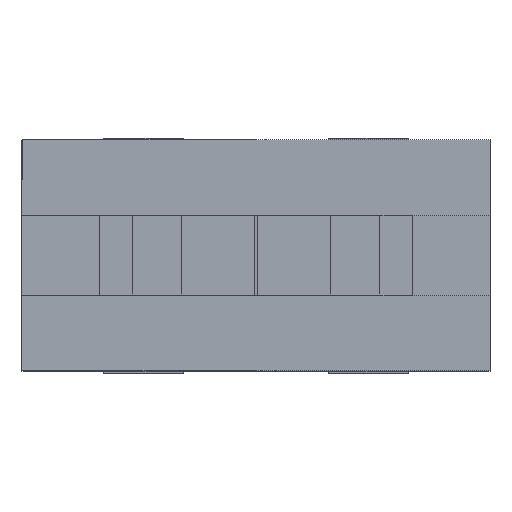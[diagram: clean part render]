
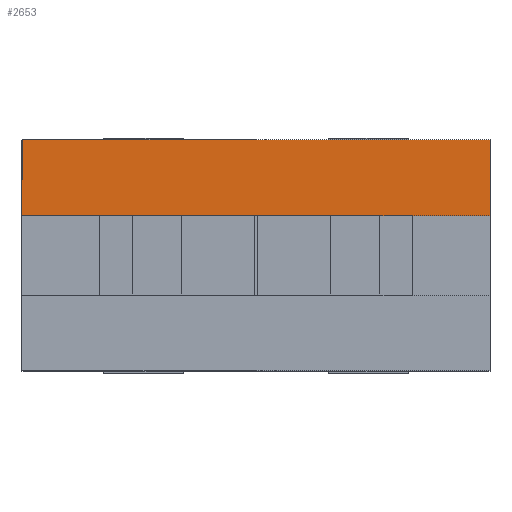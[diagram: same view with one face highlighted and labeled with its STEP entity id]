
A CAD part, top view. The second image highlights one B-rep face of the part: STEP entity #2653.
In plain terms, the highlighted planar face has unit normal (0, 0, 1).
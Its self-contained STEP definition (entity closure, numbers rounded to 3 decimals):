
#53 = FACE_OUTER_BOUND ( 'NONE', #436, .T. ) ;
#379 = DIRECTION ( 'NONE',  ( -1., 0., 0. ) ) ;
#436 = EDGE_LOOP ( 'NONE', ( #4665, #690, #4842, #4064 ) ) ;
#528 = VECTOR ( 'NONE', #6042, 1000. ) ;
#558 = DIRECTION ( 'NONE',  ( -1., 0., 0. ) ) ;
#690 = ORIENTED_EDGE ( 'NONE', *, *, #2943, .F. ) ;
#870 = VERTEX_POINT ( 'NONE', #5996 ) ;
#1016 = DIRECTION ( 'NONE',  ( 0., -1., 0. ) ) ;
#1048 = LINE ( 'NONE', #1501, #5958 ) ;
#1078 = VERTEX_POINT ( 'NONE', #3199 ) ;
#1444 = EDGE_CURVE ( 'NONE', #2735, #1078, #5807, .T. ) ;
#1501 = CARTESIAN_POINT ( 'NONE',  ( 23.5, 11.6, 52.7 ) ) ;
#1750 = LINE ( 'NONE', #5992, #528 ) ;
#1891 = CARTESIAN_POINT ( 'NONE',  ( 23.5, 4., 52.7 ) ) ;
#2037 = EDGE_CURVE ( 'NONE', #5487, #1078, #1750, .T. ) ;
#2089 = LINE ( 'NONE', #4343, #3368 ) ;
#2653 = ADVANCED_FACE ( 'NONE', ( #53 ), #3928, .F. ) ;
#2735 = VERTEX_POINT ( 'NONE', #1891 ) ;
#2943 = EDGE_CURVE ( 'NONE', #870, #2735, #1048, .T. ) ;
#3199 = CARTESIAN_POINT ( 'NONE',  ( -23.5, 4., 52.7 ) ) ;
#3368 = VECTOR ( 'NONE', #558, 1000. ) ;
#3414 = DIRECTION ( 'NONE',  ( 0., 0., -1. ) ) ;
#3493 = CARTESIAN_POINT ( 'NONE',  ( -23.5, 11.6, 52.7 ) ) ;
#3494 = CARTESIAN_POINT ( 'NONE',  ( 23.5, 11.6, 52.7 ) ) ;
#3716 = VECTOR ( 'NONE', #379, 1000. ) ;
#3808 = DIRECTION ( 'NONE',  ( -1., 0., 0. ) ) ;
#3928 = PLANE ( 'NONE',  #4228 ) ;
#4064 = ORIENTED_EDGE ( 'NONE', *, *, #2037, .T. ) ;
#4228 = AXIS2_PLACEMENT_3D ( 'NONE', #3494, #3414, #3808 ) ;
#4280 = EDGE_CURVE ( 'NONE', #870, #5487, #2089, .T. ) ;
#4343 = CARTESIAN_POINT ( 'NONE',  ( 23.5, 11.6, 52.7 ) ) ;
#4660 = CARTESIAN_POINT ( 'NONE',  ( 23.5, 4., 52.7 ) ) ;
#4665 = ORIENTED_EDGE ( 'NONE', *, *, #1444, .F. ) ;
#4842 = ORIENTED_EDGE ( 'NONE', *, *, #4280, .T. ) ;
#5487 = VERTEX_POINT ( 'NONE', #3493 ) ;
#5807 = LINE ( 'NONE', #4660, #3716 ) ;
#5958 = VECTOR ( 'NONE', #1016, 1000. ) ;
#5992 = CARTESIAN_POINT ( 'NONE',  ( -23.5, 0., 52.7 ) ) ;
#5996 = CARTESIAN_POINT ( 'NONE',  ( 23.5, 11.6, 52.7 ) ) ;
#6042 = DIRECTION ( 'NONE',  ( 0., -1., 0. ) ) ;
